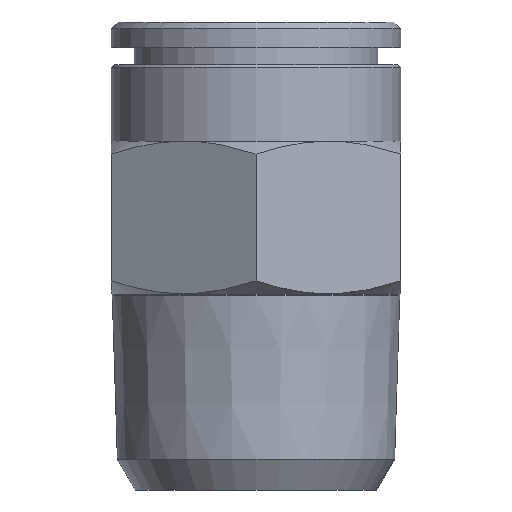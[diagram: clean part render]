
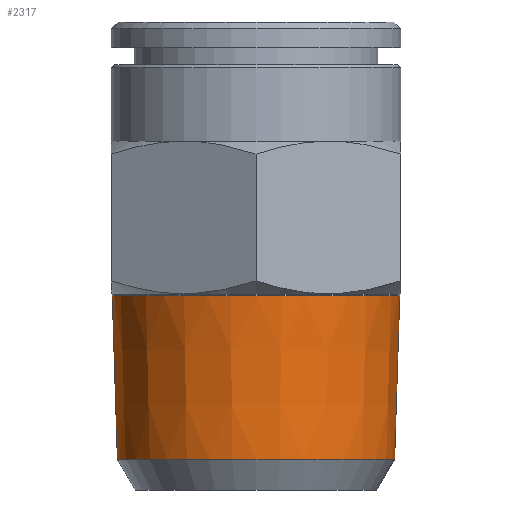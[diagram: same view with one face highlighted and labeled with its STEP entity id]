
A CAD part, left-side view. The second image highlights one B-rep face of the part: STEP entity #2317.
In plain terms, the highlighted conical face has half-angle 1.79 degrees and reference radius 8.447 mm.
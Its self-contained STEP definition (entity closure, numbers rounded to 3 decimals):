
#1229=CONICAL_SURFACE('',#2156,8.447,1.79);
#1247=ORIENTED_EDGE('',*,*,#1583,.F.);
#1248=ORIENTED_EDGE('',*,*,#1584,.F.);
#1463=CIRCLE('',#2157,8.147);
#1464=CIRCLE('',#2158,8.447);
#1505=VERTEX_POINT('',#2382);
#1506=VERTEX_POINT('',#2384);
#1583=EDGE_CURVE('',#1505,#1505,#1463,.T.);
#1584=EDGE_CURVE('',#1506,#1506,#1464,.T.);
#1691=EDGE_LOOP('',(#1247));
#1692=EDGE_LOOP('',(#1248));
#1773=FACE_BOUND('',#1691,.T.);
#1774=FACE_BOUND('',#1692,.T.);
#1859=DIRECTION('',(0.,1.,0.));
#1860=DIRECTION('',(0.,0.,1.));
#1861=DIRECTION('',(0.,-1.,0.));
#1862=DIRECTION('',(8.147,0.,0.));
#1863=DIRECTION('',(0.,1.,0.));
#1864=DIRECTION('',(-8.447,0.,0.));
#2156=AXIS2_PLACEMENT_3D('',#2381,#1859,#1860);
#2157=AXIS2_PLACEMENT_3D('',#2383,#1861,#1862);
#2158=AXIS2_PLACEMENT_3D('',#2385,#1863,#1864);
#2317=ADVANCED_FACE('',(#1773,#1774),#1229,.T.);
#2381=CARTESIAN_POINT('',(0.,11.4,0.));
#2382=CARTESIAN_POINT('',(8.147,1.8,0.));
#2383=CARTESIAN_POINT('',(0.,1.8,0.));
#2384=CARTESIAN_POINT('',(8.447,11.4,0.));
#2385=CARTESIAN_POINT('',(0.,11.4,0.));
